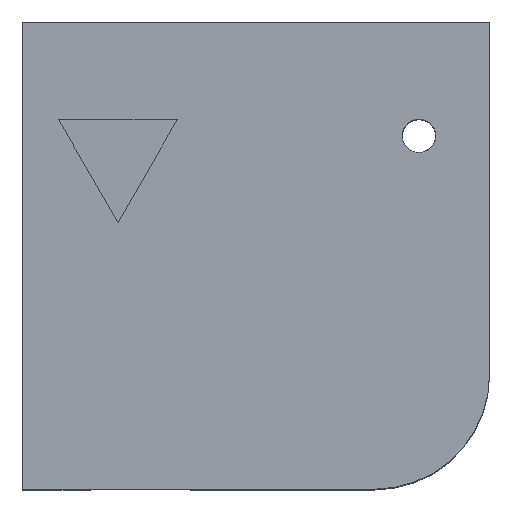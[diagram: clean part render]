
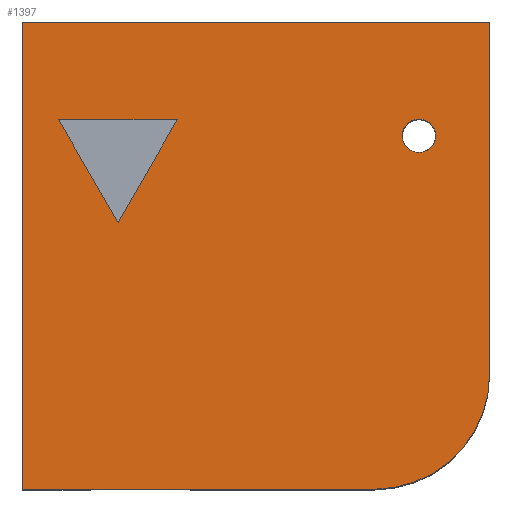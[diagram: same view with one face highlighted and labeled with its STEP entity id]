
A CAD part, top view. The second image highlights one B-rep face of the part: STEP entity #1397.
In plain terms, the highlighted planar face has unit normal (0, 0, 1).
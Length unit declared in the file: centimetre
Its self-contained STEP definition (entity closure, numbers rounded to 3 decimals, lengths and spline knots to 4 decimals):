
#51 = VERTEX_POINT ( 'NONE', #1490 ) ;
#119 = CARTESIAN_POINT ( 'NONE',  ( 77.5248, 790.6461, 1000. ) ) ;
#169 = VERTEX_POINT ( 'NONE', #589 ) ;
#204 = VERTEX_POINT ( 'NONE', #1407 ) ;
#212 = LINE ( 'NONE', #1431, #1562 ) ;
#224 = CARTESIAN_POINT ( 'NONE',  ( 77.5248, 790.6461, 1000. ) ) ;
#237 = ORIENTED_EDGE ( 'NONE', *, *, #492, .T. ) ;
#245 = LINE ( 'NONE', #224, #1420 ) ;
#259 = EDGE_CURVE ( 'NONE', #204, #2021, #1702, .T. ) ;
#265 = ORIENTED_EDGE ( 'NONE', *, *, #402, .F. ) ;
#267 = LINE ( 'NONE', #2174, #820 ) ;
#279 = CARTESIAN_POINT ( 'NONE',  ( 0., 1000., 1000. ) ) ;
#281 = ORIENTED_EDGE ( 'NONE', *, *, #739, .T. ) ;
#292 = EDGE_LOOP ( 'NONE', ( #1735, #868, #237, #1313, #281 ) ) ;
#352 = CARTESIAN_POINT ( 'NONE',  ( 1000., 1000., 1000. ) ) ;
#374 = DIRECTION ( 'NONE',  ( -1., 0., 0. ) ) ;
#375 = VERTEX_POINT ( 'NONE', #1383 ) ;
#386 = ORIENTED_EDGE ( 'NONE', *, *, #2120, .T. ) ;
#402 = EDGE_CURVE ( 'NONE', #2011, #51, #995, .T. ) ;
#474 = FACE_BOUND ( 'NONE', #1611, .T. ) ;
#492 = EDGE_CURVE ( 'NONE', #1677, #1577, #212, .T. ) ;
#516 = DIRECTION ( 'NONE',  ( 0., 0., 1. ) ) ;
#520 = CIRCLE ( 'NONE', #966, 246.1484 ) ;
#589 = CARTESIAN_POINT ( 'NONE',  ( 884.5952, 756.4841, 1000. ) ) ;
#622 = DIRECTION ( 'NONE',  ( -1., 0., 0. ) ) ;
#640 = FACE_BOUND ( 'NONE', #1982, .T. ) ;
#691 = ORIENTED_EDGE ( 'NONE', *, *, #1669, .F. ) ;
#711 = AXIS2_PLACEMENT_3D ( 'NONE', #1699, #1015, #1191 ) ;
#737 = CARTESIAN_POINT ( 'NONE',  ( 848.762, 756.4841, 1000. ) ) ;
#739 = EDGE_CURVE ( 'NONE', #979, #204, #267, .T. ) ;
#745 = VECTOR ( 'NONE', #1689, 100. ) ;
#766 = EDGE_CURVE ( 'NONE', #2122, #2011, #245, .T. ) ;
#805 = DIRECTION ( 'NONE',  ( 0.501, -0.866, 0. ) ) ;
#807 = EDGE_CURVE ( 'NONE', #1577, #979, #1311, .T. ) ;
#820 = VECTOR ( 'NONE', #1815, 100. ) ;
#821 = CARTESIAN_POINT ( 'NONE',  ( 204.7447, 570.6368, 1000. ) ) ;
#867 = CARTESIAN_POINT ( 'NONE',  ( 1000., 246.1484, 1000. ) ) ;
#868 = ORIENTED_EDGE ( 'NONE', *, *, #1322, .T. ) ;
#914 = DIRECTION ( 'NONE',  ( 0., 1., 0. ) ) ;
#966 = AXIS2_PLACEMENT_3D ( 'NONE', #1932, #516, #1614 ) ;
#979 = VERTEX_POINT ( 'NONE', #279 ) ;
#995 = LINE ( 'NONE', #821, #1100 ) ;
#1015 = DIRECTION ( 'NONE',  ( 0., 0., 1. ) ) ;
#1023 = VECTOR ( 'NONE', #2269, 100. ) ;
#1100 = VECTOR ( 'NONE', #2233, 100. ) ;
#1121 = CIRCLE ( 'NONE', #1385, 35.8332 ) ;
#1191 = DIRECTION ( 'NONE',  ( 1., 0., 0. ) ) ;
#1195 = VECTOR ( 'NONE', #374, 100. ) ;
#1264 = DIRECTION ( 'NONE',  ( 0., 0., -1. ) ) ;
#1311 = LINE ( 'NONE', #1656, #745 ) ;
#1313 = ORIENTED_EDGE ( 'NONE', *, *, #807, .T. ) ;
#1322 = EDGE_CURVE ( 'NONE', #2021, #1677, #520, .T. ) ;
#1383 = CARTESIAN_POINT ( 'NONE',  ( 812.9288, 756.4841, 1000. ) ) ;
#1385 = AXIS2_PLACEMENT_3D ( 'NONE', #737, #1264, #1961 ) ;
#1397 = ADVANCED_FACE ( 'NONE', ( #474, #640, #2068 ), #2240, .T. ) ;
#1407 = CARTESIAN_POINT ( 'NONE',  ( 0., 0., 1000. ) ) ;
#1420 = VECTOR ( 'NONE', #805, 100. ) ;
#1431 = CARTESIAN_POINT ( 'NONE',  ( 1000., 1000., 1000. ) ) ;
#1449 = CARTESIAN_POINT ( 'NONE',  ( 331.3721, 790.6461, 1000. ) ) ;
#1459 = AXIS2_PLACEMENT_3D ( 'NONE', #2213, #2061, #622 ) ;
#1488 = CARTESIAN_POINT ( 'NONE',  ( 753.8516, 0., 1000. ) ) ;
#1490 = CARTESIAN_POINT ( 'NONE',  ( 331.3721, 790.6461, 1000. ) ) ;
#1562 = VECTOR ( 'NONE', #914, 100. ) ;
#1577 = VERTEX_POINT ( 'NONE', #352 ) ;
#1588 = LINE ( 'NONE', #1449, #1195 ) ;
#1611 = EDGE_LOOP ( 'NONE', ( #1893, #691, #265 ) ) ;
#1614 = DIRECTION ( 'NONE',  ( 1., 0., 0. ) ) ;
#1643 = ORIENTED_EDGE ( 'NONE', *, *, #1660, .T. ) ;
#1656 = CARTESIAN_POINT ( 'NONE',  ( 0., 1000., 1000. ) ) ;
#1660 = EDGE_CURVE ( 'NONE', #375, #169, #1121, .T. ) ;
#1669 = EDGE_CURVE ( 'NONE', #51, #2122, #1588, .T. ) ;
#1677 = VERTEX_POINT ( 'NONE', #867 ) ;
#1689 = DIRECTION ( 'NONE',  ( -1., 0., 0. ) ) ;
#1699 = CARTESIAN_POINT ( 'NONE',  ( 0., 0., 1000. ) ) ;
#1702 = LINE ( 'NONE', #1725, #1023 ) ;
#1725 = CARTESIAN_POINT ( 'NONE',  ( 0., 0., 1000. ) ) ;
#1735 = ORIENTED_EDGE ( 'NONE', *, *, #259, .T. ) ;
#1815 = DIRECTION ( 'NONE',  ( 0., -1., 0. ) ) ;
#1892 = CIRCLE ( 'NONE', #1459, 35.8332 ) ;
#1893 = ORIENTED_EDGE ( 'NONE', *, *, #766, .F. ) ;
#1932 = CARTESIAN_POINT ( 'NONE',  ( 753.8516, 246.1484, 1000. ) ) ;
#1961 = DIRECTION ( 'NONE',  ( -1., 0., 0. ) ) ;
#1982 = EDGE_LOOP ( 'NONE', ( #1643, #386 ) ) ;
#2003 = CARTESIAN_POINT ( 'NONE',  ( 204.7447, 570.6368, 1000. ) ) ;
#2011 = VERTEX_POINT ( 'NONE', #2003 ) ;
#2021 = VERTEX_POINT ( 'NONE', #1488 ) ;
#2061 = DIRECTION ( 'NONE',  ( 0., 0., -1. ) ) ;
#2068 = FACE_OUTER_BOUND ( 'NONE', #292, .T. ) ;
#2120 = EDGE_CURVE ( 'NONE', #169, #375, #1892, .T. ) ;
#2122 = VERTEX_POINT ( 'NONE', #119 ) ;
#2174 = CARTESIAN_POINT ( 'NONE',  ( 0., 1000., 1000. ) ) ;
#2213 = CARTESIAN_POINT ( 'NONE',  ( 848.762, 756.4841, 1000. ) ) ;
#2233 = DIRECTION ( 'NONE',  ( 0.499, 0.867, 0. ) ) ;
#2240 = PLANE ( 'NONE',  #711 ) ;
#2269 = DIRECTION ( 'NONE',  ( 1., 0., 0. ) ) ;
